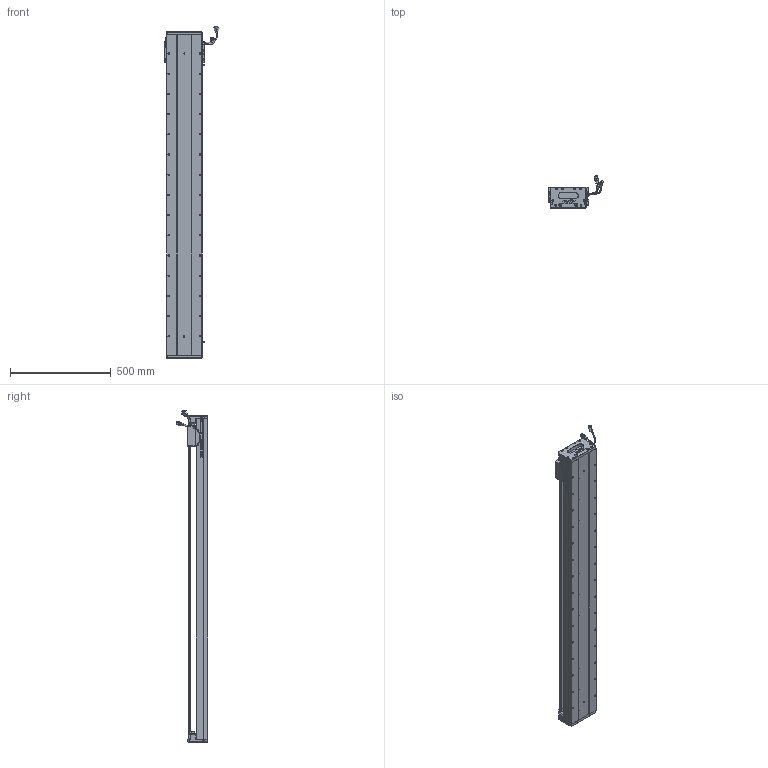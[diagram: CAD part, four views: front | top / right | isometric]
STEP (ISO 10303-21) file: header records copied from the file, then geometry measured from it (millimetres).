
FILE_DESCRIPTION (( 'STEP AP203' ), '1' );
FILE_NAME ('Z1-RY170D-1-L500-B-K.SLDASM_1400.step', '2021-05-17T08:53:02', ( '盈信电脑' ), ( '东莞市道滘镇水果街19号' ), 'SwSTEP 2.0', 'SolidWorks 2016', '' );
FILE_SCHEMA (( 'CONFIG_CONTROL_DESIGN' ));
Length unit declared in the file: millimetre
Products named in the file (36): 170-Z-臏賑輸盄裔(21遴); HARNESS; SCREW-M1.6; Z-170詩湍傷裔啣; SCREW-M1.6-3; Z-RY170詩湍奻揤裔; COVER; RY170直线电机感应器672光电感应片; SCREW-M1.7-1; HARNESS-Part-1; Z1-RY170-L500耀郪菁釱_1400; LABEL-Part-1; Z1-RY170-L500詩湍145mm遵_1400; SEAL-Part-1; PBU_SHEET; 榋妏寠巭燃_暯_M2_2; HARNESS-Part-2; SCREW-M1.7; 140雄赽晤鎢ん堤盄; COVER-Part-1; 140蚥薯蝶輸; 覜茼ん672; SCALE-Part-2; Z-RY170詩湍狟揤裔; SHIELDPLATE; SEAL; SCREW-M1.6-2; 080黍杅芛假蚾釱21遴; SCALE-Part-1; Z1-RY170D-1-L500-B-K.SLDASM_1400; SCREW-M1.6-1; SCALE; HOLDER0; PSLH080_PSLF2; LABEL; Z1-RY170臏賑輸(21遴)
Assembly tree (41 placements, depth 4):
  Z1-RY170D-1-L500-B-K.SLDASM_1400
    Z1-RY170-L500耀郪菁釱_1400
    RY170直线电机感应器672光电感应片
    Z1-RY170臏賑輸(21遴)
    覜茼ん672  x3
    PSLH080_PSLF2
      SCALE
        SCALE-Part-1
        SCALE-Part-2
      HARNESS
        HARNESS-Part-1
        HARNESS-Part-2
      LABEL
        LABEL-Part-1
      COVER
        COVER-Part-1
      SEAL
        SEAL-Part-1
      榋妏寠巭燃_暯_M2_2
      SHIELDPLATE
      SCREW-M1.7
      SCREW-M1.7-1
      PBU_SHEET
      SCREW-M1.6
      SCREW-M1.6-1
      SCREW-M1.6-2
      SCREW-M1.6-3
      HOLDER0
    080黍杅芛假蚾釱21遴
    Z1-RY170-L500詩湍145mm遵_1400
    Z-170詩湍傷裔啣  x2
    Z-RY170詩湍奻揤裔  x2
    Z-RY170詩湍狟揤裔  x2
    140蚥薯蝶輸  x2
    170-Z-臏賑輸盄裔(21遴)
    140雄赽晤鎢ん堤盄
Bounding box: 275.33 x 158.11 x 1643.72 mm (x, y, z)
Volume: 8261515.4 mm3; surface area: 2056426.4 mm2
Topology: 36 solids, 36 shells, 3276 faces, 8887 edges, 5571 vertices
Faces by surface type: cylinder 1542, plane 1188, cone 424, torus 69, bspline 53
Entity records: 98431 total; most frequent: CARTESIAN_POINT 26096, ORIENTED_EDGE 14498, DIRECTION 13953, EDGE_CURVE 7249, AXIS2_PLACEMENT_3D 5102, VERTEX_POINT 4689, LINE 3749, VECTOR 3749
